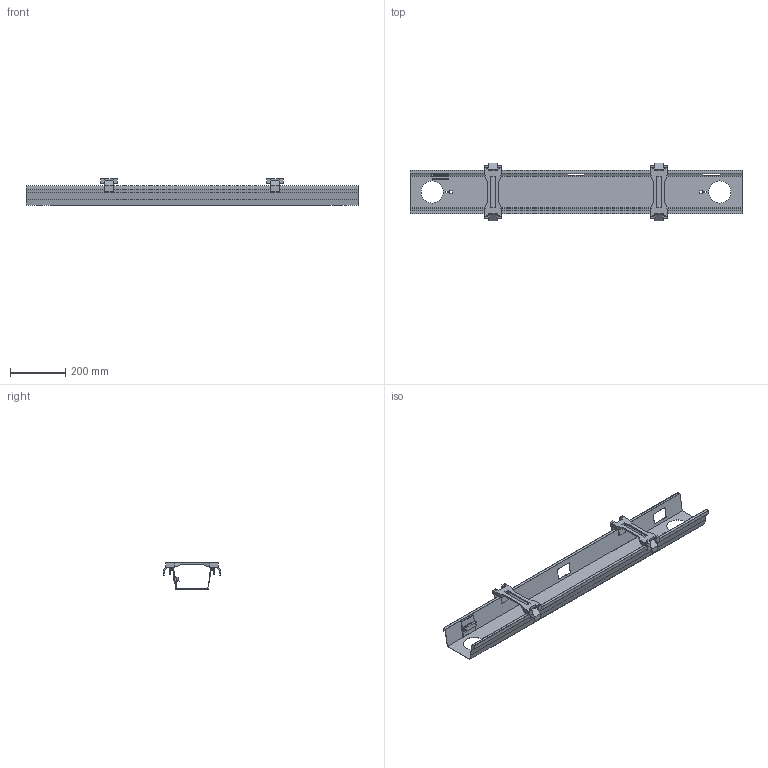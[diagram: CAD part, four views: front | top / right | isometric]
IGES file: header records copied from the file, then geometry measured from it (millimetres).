
Start section: Data from Parasolid IGES Translator 20.0.26, Copyright(c) 2006 Siemens P LM Software. All Rights Reserved.
Global section: file name: 9309808.igs; native system: By Siemens PLM Incorporated; preprocessor: XPlus GENERIC/IGES 20.0.26; author: Noname; organization: Noname; date: 20211203.153045; units: millimetre
Bounding box: 1200 x 207.5 x 95.5 mm (x, y, z)
Surface area: 786016.8 mm2 (no closed solid volume)
Topology: 0 solids, 0 shells, 266 faces, 1606 edges, 1597 vertices
Faces by surface type: extrusion 240, revolution 26
